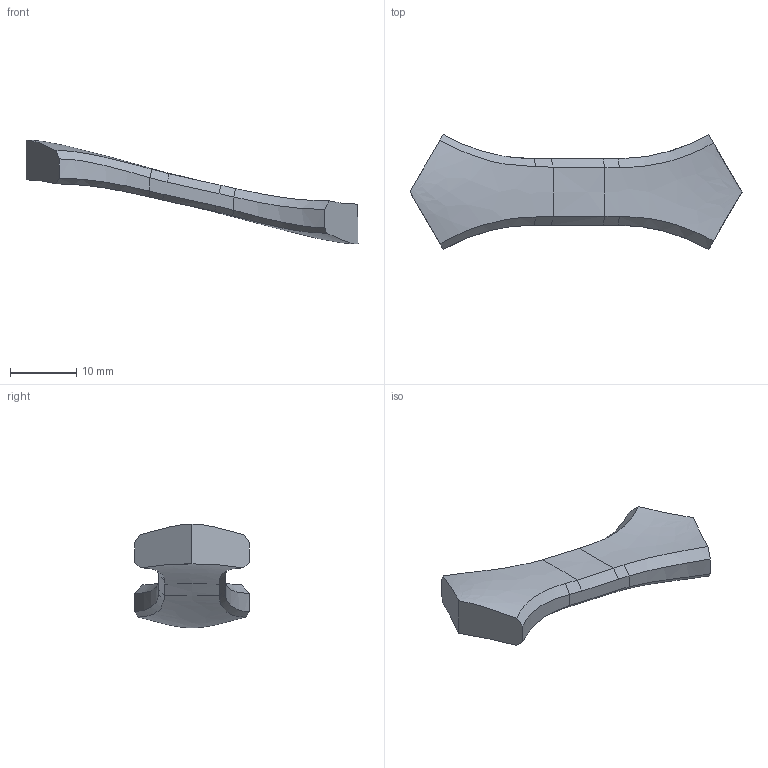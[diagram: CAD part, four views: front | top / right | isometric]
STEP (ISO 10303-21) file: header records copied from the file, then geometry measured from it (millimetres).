
FILE_DESCRIPTION(/* description */ ('STEP AP214'),/* implementation_level */ '2;1');
FILE_NAME(/* name */ '6064c4198f724118ed04cc74',/* time_stamp */ '2021-03-31T18:48:58+00:00',/* author */ (''),/* organization */ (''),/* preprocessor_version */ 'ST-DEVELOPER v18.1',/* originating_system */ ' ',/* authorisation */ ' ');
FILE_SCHEMA (('AUTOMOTIVE_DESIGN {1 0 10303 214 3 1 1}'));
Length unit declared in the file: metre
Products named in the file (1): Part 1
Bounding box: 50.05 x 17.32 x 15.66 mm (x, y, z)
Volume: 2523.6 mm3; surface area: 1610.7 mm2
Topology: 1 solids, 1 shells, 36 faces, 90 edges, 52 vertices
Faces by surface type: bspline 26, plane 6, cylinder 4
Entity records: 1730 total; most frequent: CARTESIAN_POINT 1107, ORIENTED_EDGE 172, EDGE_CURVE 86, B_SPLINE_CURVE_WITH_KNOTS 76, VERTEX_POINT 52, EDGE_LOOP 36, FACE_BOUND 36, ADVANCED_FACE 36
